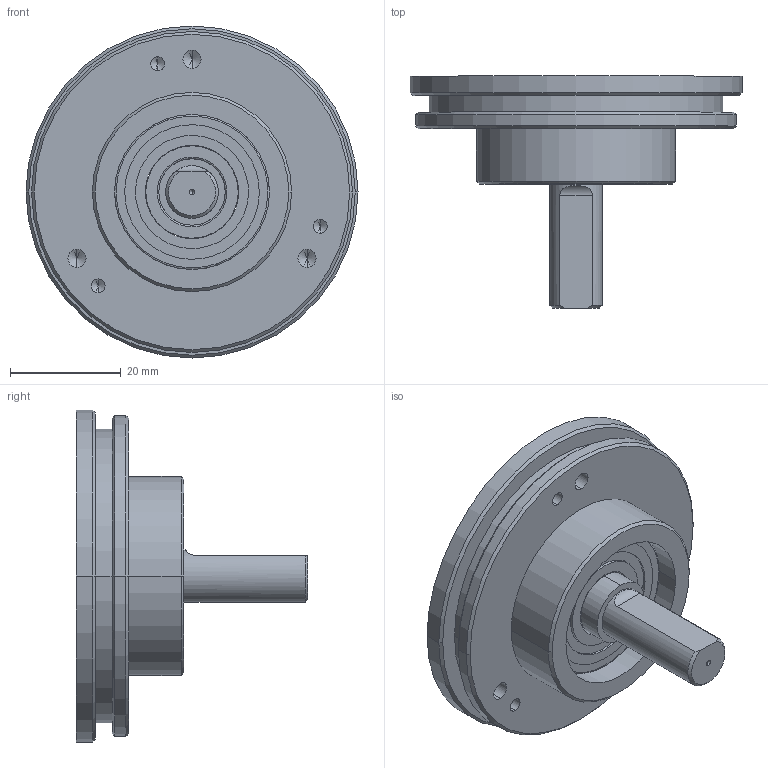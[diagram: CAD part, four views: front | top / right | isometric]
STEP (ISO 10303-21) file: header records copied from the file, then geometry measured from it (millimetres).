
FILE_DESCRIPTION (( 'STEP AP214' ), '1' );
FILE_NAME ('drawing-ocd-ca7v-c5z-n.STEP', '2017-01-09T14:18:23', ( '' ), ( '' ), 'SwSTEP 2.0', 'SolidWorks 2015', '' );
FILE_SCHEMA (( 'AUTOMOTIVE_DESIGN' ));
Length unit declared in the file: millimetre
Products named in the file (1): drawing-ocd-ca7v-c5z-n
Bounding box: 60 x 41.9 x 60 mm (x, y, z)
Volume: 28859.8 mm3; surface area: 16461.8 mm2
Topology: 12 solids, 12 shells, 198 faces, 492 edges, 284 vertices
Faces by surface type: cylinder 79, bspline 50, plane 35, cone 34
Entity records: 9378 total; most frequent: CARTESIAN_POINT 2797, ORIENTED_EDGE 876, DIRECTION 873, EDGE_CURVE 438, AXIS2_PLACEMENT_3D 378, VERTEX_POINT 284, EDGE_LOOP 240, CIRCLE 229
